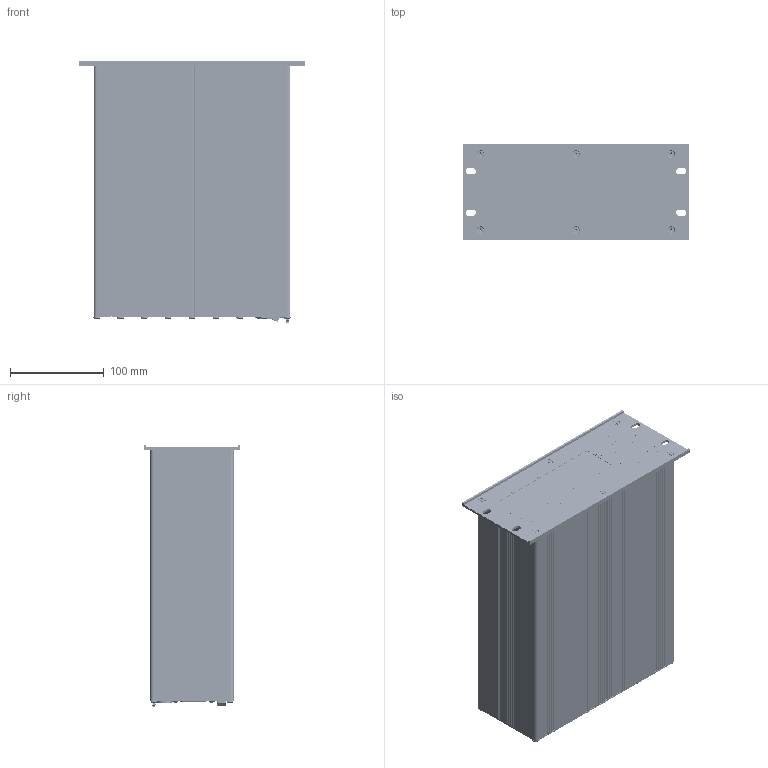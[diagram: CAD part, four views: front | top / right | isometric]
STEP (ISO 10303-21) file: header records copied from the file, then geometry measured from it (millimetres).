
FILE_DESCRIPTION (( 'STEP AP214' ), '1' );
FILE_NAME ('2-7900-0XX.STEP', '2023-06-27T18:06:54', ( '' ), ( '' ), 'SwSTEP 2.0', 'SolidWorks 2022', '' );
FILE_SCHEMA (( 'AUTOMOTIVE_DESIGN' ));
Length unit declared in the file: inch
Products named in the file (11): CKN2075-ND; 6200-313; 486-1993-ND; 97517A010_97517A010; 7900-034; 5300-152; 91770A092_91770A092; blank 5300-007; 817-1421-ND; 2-7900-0XX; 7600-070-2
Assembly tree (12 placements, depth 3):
  2-7900-0XX
    7900-034
    7600-070-2
    6200-313
      5300-152
      486-1993-ND
      CKN2075-ND
      817-1421-ND
      97517A010_97517A010  x2
      91770A092_91770A092  x2
    blank 5300-007
Bounding box: 241.3 x 101.6 x 279.1 mm (x, y, z)
Volume: 598717.5 mm3; surface area: 602328.1 mm2
Topology: 51 solids, 51 shells, 5472 faces, 15624 edges, 10326 vertices
Faces by surface type: plane 2339, cylinder 2337, cone 316, bspline 316, torus 114, sphere 50
Full cylindrical faces by diameter (mm): 2 x4, 2.8 x3, 3.175 x2, 3.2 x3, 3.277 x8, 3.3 x2, 3.607 x2, 4 x2, 5.7 x2, 6.528 x2, 6.655 x2, 8.331 x6, 12.66 x1, 12.7 x1, 15.2 x1
Entity records: 285498 total; most frequent: CARTESIAN_POINT 91832, ORIENTED_EDGE 30794, DIRECTION 24346, EDGE_CURVE 15397, VERTEX_POINT 10225, LINE 8258, VECTOR 8258, AXIS2_PLACEMENT_3D 8044
